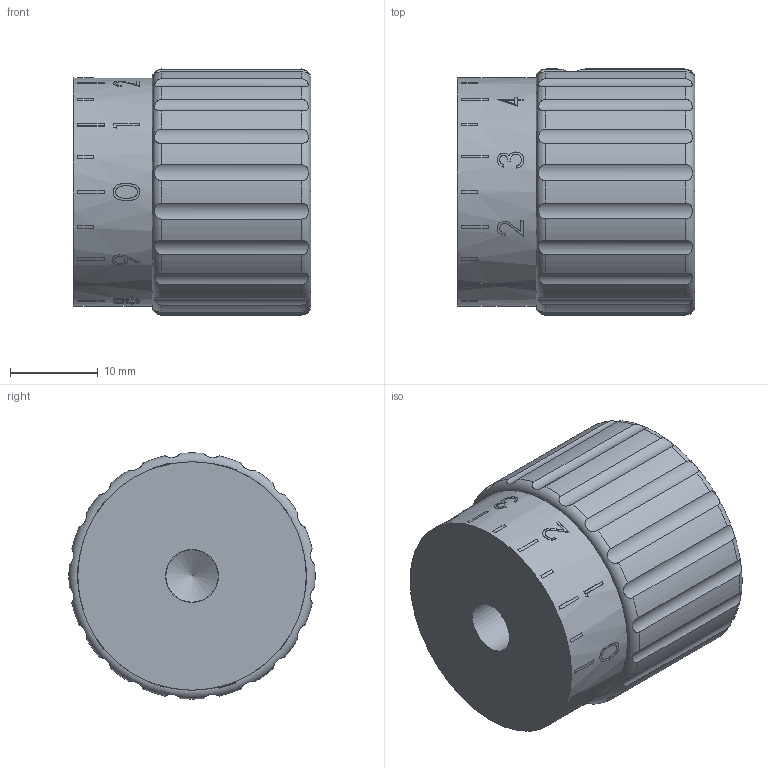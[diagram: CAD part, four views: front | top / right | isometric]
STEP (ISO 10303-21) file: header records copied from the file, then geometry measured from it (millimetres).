
FILE_DESCRIPTION( ( 'STEP AP203' ), '1' );
FILE_NAME( 'C:/Temp/Ganter_Step_05_03_2020/data/1_4/gn_436_1/gn_436_1_s/Stainless Steel-Control knob GN 436.1-28-B6-S-MT.stp', '2020-03-05T10:48:47', ( 'License CC BY-ND 4.0' ), ( 'CADENAS' ), ' ', 'PARTsolutions', ' ' );
FILE_SCHEMA( ( 'CONFIG_CONTROL_DESIGN' ) );
Length unit declared in the file: millimetre
Products named in the file (1): _Stainless Steel-Control knob GN 436.1-28-B6-S-MT
Bounding box: 27 x 27.99 x 27.99 mm (x, y, z)
Volume: 15004.2 mm3; surface area: 4001.8 mm2
Topology: 1 solids, 1 shells, 308 faces, 802 edges, 534 vertices
Faces by surface type: cylinder 155, plane 148, cone 3, torus 2
Full cylindrical faces by diameter (mm): 3.242 x2, 5.96 x1, 6 x1, 26 x1
Entity records: 10366 total; most frequent: CARTESIAN_POINT 2841, ORIENTED_EDGE 1566, DIRECTION 1522, EDGE_CURVE 783, AXIS2_PLACEMENT_3D 558, VERTEX_POINT 527, LINE 406, VECTOR 406
